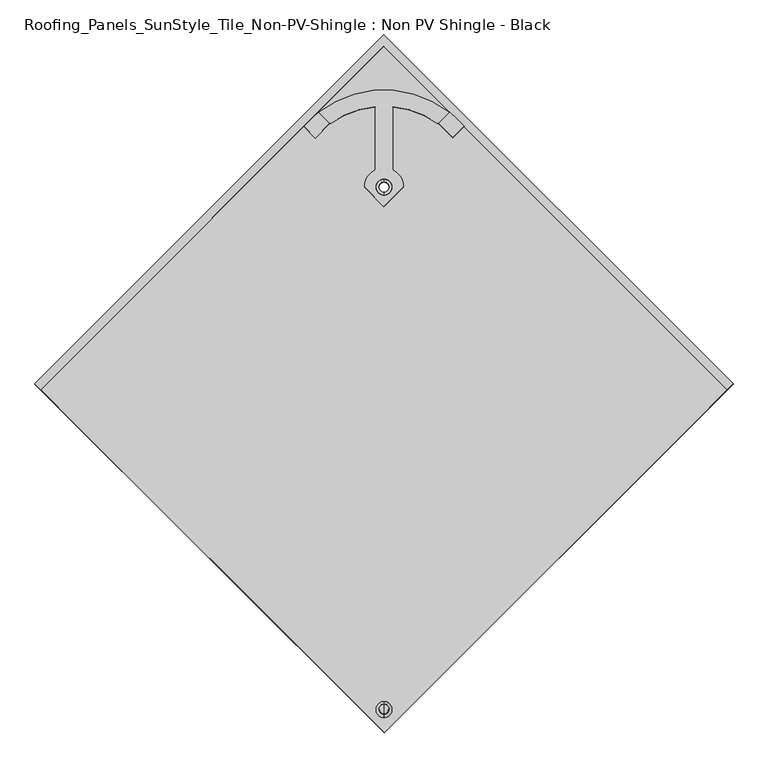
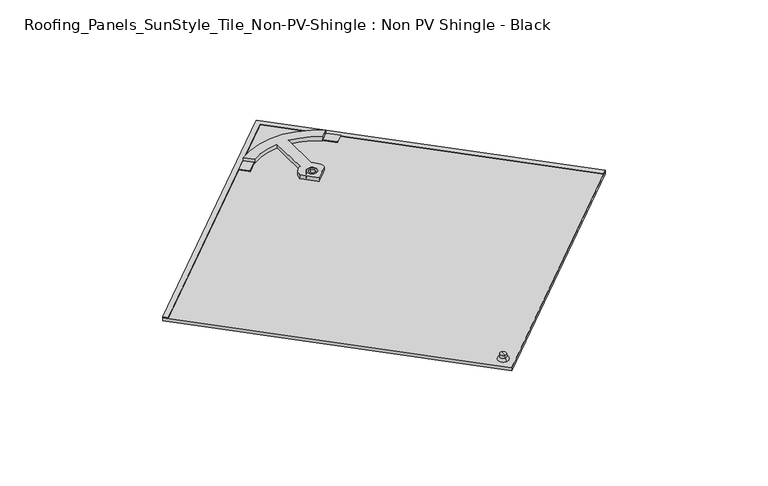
"""IFC4 building model written with IfcOpenShell, lengths in millimetres: proxy geometry, Roofing_Panels_SunStyle_Tile_Non-PV-Shingle : Non PV Shingle - Black."""

from ifc_helpers import new_model, si_unit, point, frame, frame_2d, origin, place, context, project, spatial, polyline, circle_curve, ellipse_curve, trimmed, segment, composite_curve, outline, extrude, source, transform, mapped, element, save
from ifc_brep_helpers import plane_surface, cylinder_surface, revolved_surface, advanced_brep


def roofing_panels_sunstyle_tile_non_pv_shingle_non_pv_shingle_be952c39(model_context):
    return source(origin(), model_context, "Body", "SolidModel", [
        advanced_brep(
        [(0.0, -498.1240851, 26.2215343), (0.0, -484.7910045, 25.9982384), (0.0, -485.1593136, 4.0063691), (0.0, -498.4923941, 4.229665), (0.0, -503.6233139, 26.3136327), (0.0, -479.2917757, 25.90614), (0.0, -498.6743176, 31.2274395), (0.0, -484.0734546, 30.9829114), (0.0, -491.2398577, 39.1080636), (0.0, -483.9394262, 38.9857996), (0.0, -498.5402891, 39.2303277), (0.0, -491.8258539, 4.118017)],
        [
            (0, 1, circle_curve(frame((0.0, -491.4575448, 26.1098864), z_axis=(0.0, -0.016745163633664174, -0.9998597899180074), x_axis=(0.0, 0.9998597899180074, -0.016745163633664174)), 6.6674751)),
            (1, 2),
            (2, 3, circle_curve(frame((0.0, -491.8258539, 4.118017), z_axis=(0.0, 0.016745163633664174, 0.9998597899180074), x_axis=(0.0, 0.9998597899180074, -0.016745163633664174)), 6.6674751)),
            (3, 0),
            (1, 0, circle_curve(frame((0.0, -491.4575448, 26.1098864), z_axis=(0.0, -0.016745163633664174, -0.9998597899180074), x_axis=(0.0, 0.9998597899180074, -0.016745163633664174)), 6.6674751)),
            (3, 2, circle_curve(frame((0.0, -491.8258539, 4.118017), z_axis=(0.0, 0.016745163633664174, 0.9998597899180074), x_axis=(0.0, 0.9998597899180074, -0.016745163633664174)), 6.6674751)),
            (4, 5, circle_curve(frame((0.0, -491.4575448, 26.1098864), z_axis=(0.0, -0.016745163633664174, -0.9998597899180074), x_axis=(0.0, 0.9998597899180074, -0.016745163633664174)), 12.1674751)),
            (5, 1),
            (0, 4),
            (5, 4, circle_curve(frame((0.0, -491.4575448, 26.1098864), z_axis=(0.0, -0.016745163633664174, -0.9998597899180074), x_axis=(0.0, 0.9998597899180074, -0.016745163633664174)), 12.1674751)),
            (6, 7, circle_curve(frame((0.0, -491.3738861, 31.1051755), z_axis=(0.0, -0.016745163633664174, -0.9998597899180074), x_axis=(0.0, 0.9998597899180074, -0.016745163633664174)), 7.3014552)),
            (7, 5, circle_curve(frame((0.0, -484.3776526, 25.90614), z_axis=(-1.0, 0.0, 0.0), x_axis=(0.0, -1.0, 0.0)), 5.0858769)),
            (4, 6, circle_curve(frame((0.0, -498.5402891, 26.1433289), z_axis=(-1.0, 0.0, 0.0), x_axis=(0.0, 0.9994391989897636, -0.03348563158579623)), 5.0858769)),
            (7, 6, circle_curve(frame((0.0, -491.3738861, 31.1051755), z_axis=(0.0, -0.016745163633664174, -0.9998597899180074), x_axis=(0.0, 0.9998597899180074, -0.016745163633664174)), 7.3014552)),
            (8, 9),
            (9, 10, circle_curve(frame((0.0, -491.2398577, 39.1080636), z_axis=(0.0, 0.016745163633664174, 0.9998597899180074), x_axis=(0.0, 0.9998597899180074, -0.016745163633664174)), 7.3014552)),
            (10, 8),
            (10, 9, circle_curve(frame((0.0, -491.2398577, 39.1080636), z_axis=(0.0, 0.016745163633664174, 0.9998597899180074), x_axis=(0.0, 0.9998597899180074, -0.016745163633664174)), 7.3014552)),
            (2, 11),
            (11, 3),
            (9, 7),
            (6, 10),
        ],
        [
            cylinder_surface(frame((0.0, -491.2398577, 39.1080636), z_axis=(0.0, 0.016745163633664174, 0.9998597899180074), x_axis=(0.0, 0.9998597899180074, -0.016745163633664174)), 6.6674751),
            plane_surface(frame((0.0, -491.4575448, 26.1098864), z_axis=(0.0, -0.016745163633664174, -0.9998597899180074), x_axis=(0.0, 0.9998597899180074, -0.016745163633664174))),
            revolved_surface(trimmed(ellipse_curve(frame((0.0, -484.3776526, 25.90614), z_axis=(1.0, 0.0, 0.0), x_axis=(0.0, -1.0, 0.0)), 5.0858769, 5.0858769), [point((0.0, -479.2917757, 25.90614))], [point((0.0, -484.0734546, 30.9829114))], True, "CARTESIAN"), (0.0, -491.2398577, 39.1080636), (0.0, 0.016745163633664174, 0.9998597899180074)),
            plane_surface(frame((0.0, -491.2398577, 39.1080636), z_axis=(0.0, 0.016745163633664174, 0.9998597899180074), x_axis=(0.0, 0.9998597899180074, -0.016745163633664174))),
            plane_surface(frame((0.0, -491.8258539, 4.118017), z_axis=(0.0, -0.016745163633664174, -0.9998597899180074), x_axis=(0.0, 0.9998597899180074, -0.016745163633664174))),
            cylinder_surface(frame((0.0, -491.2398577, 39.1080636), z_axis=(0.0, 0.016745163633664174, 0.9998597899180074), x_axis=(0.0, 0.9998597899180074, -0.016745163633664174)), 7.3014552),
        ],
        [
            (0, [[1, 2, 3, 4]]),
            (0, [[5, -4, 6, -2]]),
            (1, [[7, 8, -1, 9]]),
            (1, [[10, -9, -5, -8]]),
            (2, [[11, 12, -7, 13]]),
            (2, [[14, -13, -10, -12]]),
            (3, [[15, 16, 17]]),
            (3, [[-17, 18, -15]]),
            (4, [[-3, 19, 20]]),
            (4, [[-6, -20, -19]]),
            (5, [[-16, 21, -11, 22]]),
            (5, [[-18, -22, -14, -21]]),
        ],
    ),
        advanced_brep(
        [(0.0, 289.2885769, 20.2441668), (0.0, 304.6213779, 19.9873805), (0.0, 309.1207465, 19.9120273), (0.0, 284.7892083, 20.31952), (0.0, 289.0206547, 4.2464102), (0.0, 304.3534548, 3.9896239), (0.0, 284.5212856, 4.3217634), (0.0, 308.8528239, 3.9142707)],
        [
            (0, 1, circle_curve(frame((0.0, 296.9549774, 20.1157737), z_axis=(0.0, -0.016745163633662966, -0.9998597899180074), x_axis=(0.0, 0.9998597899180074, -0.016745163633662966)), 7.6674755)),
            (1, 2),
            (2, 3, circle_curve(frame((0.0, 296.9549774, 20.1157737), z_axis=(0.0, 0.016745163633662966, 0.9998597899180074), x_axis=(0.0, 0.9998597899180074, -0.016745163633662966)), 12.1674751)),
            (3, 0),
            (1, 0, circle_curve(frame((0.0, 296.9549774, 20.1157737), z_axis=(0.0, -0.016745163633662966, -0.9998597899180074), x_axis=(0.0, 0.9998597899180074, -0.016745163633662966)), 7.6674755)),
            (3, 2, circle_curve(frame((0.0, 296.9549774, 20.1157737), z_axis=(0.0, 0.016745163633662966, 0.9998597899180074), x_axis=(0.0, 0.9998597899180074, -0.016745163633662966)), 12.1674751)),
            (4, 5, circle_curve(frame((0.0, 296.6870548, 4.118017), z_axis=(0.0, -0.016745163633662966, -0.9998597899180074), x_axis=(0.0, 0.9998597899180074, -0.016745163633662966)), 7.6674751)),
            (5, 1),
            (0, 4),
            (5, 4, circle_curve(frame((0.0, 296.6870548, 4.118017), z_axis=(0.0, -0.016745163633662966, -0.9998597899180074), x_axis=(0.0, 0.9998597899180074, -0.016745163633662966)), 7.6674751)),
            (6, 7, circle_curve(frame((0.0, 296.6870548, 4.118017), z_axis=(0.0, -0.016745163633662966, -0.9998597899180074), x_axis=(0.0, 0.9998597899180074, -0.016745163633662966)), 12.1674751)),
            (7, 5),
            (4, 6),
            (7, 6, circle_curve(frame((0.0, 296.6870548, 4.118017), z_axis=(0.0, -0.016745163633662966, -0.9998597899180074), x_axis=(0.0, 0.9998597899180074, -0.016745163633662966)), 12.1674751)),
            (2, 7),
            (6, 3),
        ],
        [
            plane_surface(frame((0.0, 296.9549774, 20.1157737), z_axis=(0.0, 0.016745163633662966, 0.9998597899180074), x_axis=(0.0, 0.9998597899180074, -0.016745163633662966))),
            revolved_surface(polyline([(0.0, 304.62137744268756, 19.987380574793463), (0.0, 304.3534548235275, 3.989623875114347)]), (0.0, 296.9549774, 20.1157737), (0.0, 0.016745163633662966, 0.9998597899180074)),
            plane_surface(frame((0.0, 296.6870548, 4.118017), z_axis=(0.0, -0.016745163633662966, -0.9998597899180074), x_axis=(0.0, 0.9998597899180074, -0.016745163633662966))),
            cylinder_surface(frame((0.0, 296.9549774, 20.1157737), z_axis=(0.0, 0.016745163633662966, 0.9998597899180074), x_axis=(0.0, 0.9998597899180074, -0.016745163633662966)), 12.1674751),
        ],
        [
            (0, [[1, 2, 3, 4]]),
            (0, [[5, -4, 6, -2]]),
            (1, [[7, 8, -1, 9]]),
            (1, [[10, -9, -5, -8]]),
            (2, [[11, 12, -7, 13]]),
            (2, [[14, -13, -10, -12]]),
            (3, [[-3, 15, -11, 16]]),
            (3, [[-6, -16, -14, -15]]),
        ],
    ),
        extrude(outline(polyline([(1e-07, -12.0), (0.0, 0.0), (733.0016899, 0.0), (733.1044713, 733.0016826), (745.1044712, 733.0), (745.0000074, -12.0), (1e-07, -12.0)])), frame((518.3471255, -8.5059122, 16.4460771), z_axis=(0.0, 0.016745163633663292, 0.9998597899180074), x_axis=(-0.7071563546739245, 0.7069580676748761, -0.011839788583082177)), (0.0, 0.0, 1.0), 1.5),
        extrude(outline(polyline([(870.0507577, 0.0), (870.1552215, -745.0), (125.1552142, -745.0), (125.0507504, 0.0), (870.0507577, 0.0)]), holes=[composite_curve([segment(trimmed(circle_curve(frame_2d((150.1567569, -719.9944953)), 8.0), [point((144.499506, -714.3380376))], [point((155.8140077, -725.6509529))], True, "CARTESIAN"), True, "CONTINUOUS"), segment(trimmed(circle_curve(frame_2d((150.1567569, -719.9944953)), 8.0), [point((155.8140077, -725.6509529))], [point((144.499506, -714.3380376))], True, "CARTESIAN"), True, "CONTINUOUS")], self_intersect=False), composite_curve([segment(trimmed(circle_curve(frame_2d((707.2649775, -162.8081515)), 12.0), [point((698.7791012, -154.323465))], [point((715.7508538, -171.292838))], True, "CARTESIAN"), True, "CONTINUOUS"), segment(trimmed(circle_curve(frame_2d((707.2649775, -162.8081515)), 12.0), [point((715.7508538, -171.292838))], [point((698.7791012, -154.323465))], True, "CARTESIAN"), True, "CONTINUOUS")], self_intersect=False)]), frame((-615.2615997, -88.5524513, 10.2856058), z_axis=(0.0, 0.01674516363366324, 0.9998597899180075), x_axis=(0.7071563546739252, 0.7069580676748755, -0.01183978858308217)), (0.0, 0.0, 1.0), 7.5),
        advanced_brep(
        [(-98.3948724, 410.1117539, 19.4366751), (-81.1868897, 392.906184, 19.7248256), (-13.3, 418.0506034, 19.3037191), (-13.3, 323.1716174, 20.8927061), (-29.3894281, 296.9674978, 21.3315599), (0.0, 267.5821904, 21.8236907), (29.3894281, 296.9674978, 21.3315599), (13.3, 323.1716174, 20.8927061), (13.3, 418.0506034, 19.3037191), (81.1868897, 392.906184, 19.7248256), (98.3948724, 410.1117539, 19.4366751), (-12.0, 296.9674978, 21.3315599), (12.0, 296.9674978, 21.3315599), (81.1868897, 392.7387324, 9.7262277), (13.3, 417.8831517, 9.3051212), (13.3, 323.0041658, 10.8941082), (29.3894281, 296.8000461, 11.332962), (0.0, 267.4147388, 11.8250928), (-29.3894281, 296.8000461, 11.332962), (-13.3, 323.0041658, 10.8941082), (-13.3, 417.8831517, 9.3051212), (-81.1868897, 392.7387324, 9.7262277), (-81.5635806, 393.1153705, 9.7199199), (-103.6409197, 371.0411269, 10.0896086), (-121.1657242, 388.5634743, 9.7961529), (-113.9627627, 395.7644162, 9.675555), (-98.1147183, 409.6635783, 9.4427786), (-98.3948724, 409.9443023, 9.4380772), (98.0744767, 410.1896162, 9.4339688), (98.4920379, 410.6070603, 9.4269777), (110.7154352, 399.5721374, 9.6117852), (121.4464354, 388.8441462, 9.7914523), (103.7690438, 371.1692331, 10.0874631), (81.6917048, 393.2434767, 9.7177745), (-12.0, 296.8000461, 11.332962), (12.0, 296.8000461, 11.332962), (98.3948724, 409.9861652, 11.9377267), (98.0744767, 410.2314791, 11.9336183), (121.4464354, 388.8860091, 12.2911018), (110.7154352, 399.6140003, 12.1114346), (98.4920379, 410.6489232, 11.9266271), (81.6917048, 393.2853396, 12.217424), (103.7690438, 371.211096, 12.5871126), (-121.1657242, 388.6053372, 12.2958024), (-103.6409197, 371.0829898, 12.5892581), (-81.5627249, 393.158089, 12.2195551), (-98.1144137, 409.7057458, 11.942423), (-113.9627627, 395.8062791, 12.1752045)],
        [
            (0, 1),
            (1, 2, circle_curve(frame((0.0, 277.9625747, 21.649845), z_axis=(0.0, -0.01674516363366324, -0.9998597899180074), x_axis=(1.0, 0.0, 0.0)), 140.737522)),
            (2, 3),
            (3, 4, circle_curve(frame((0.0, 296.9674978, 21.3315599), z_axis=(0.0, 0.01674516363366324, 0.9998597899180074), x_axis=(1.0, 0.0, 0.0)), 29.3894281)),
            (4, 5),
            (5, 6),
            (6, 7, circle_curve(frame((0.0, 296.9674978, 21.3315599), z_axis=(0.0, 0.01674516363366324, 0.9998597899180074), x_axis=(1.0, 0.0, 0.0)), 29.3894281)),
            (7, 8),
            (8, 9, circle_curve(frame((0.0, 277.9625747, 21.649845), z_axis=(0.0, -0.01674516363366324, -0.9998597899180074), x_axis=(1.0, 0.0, 0.0)), 140.737522)),
            (9, 10),
            (10, 0, circle_curve(frame((0.0, 281.9696009, 21.5827373), z_axis=(0.0, 0.01674516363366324, 0.9998597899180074), x_axis=(1.0, 0.0, 0.0)), 161.57527)),
            (11, 12, circle_curve(frame((0.0, 296.9674978, 21.3315599), z_axis=(0.0, -0.01674516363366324, -0.9998597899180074), x_axis=(1.0, 0.0, 0.0)), 12.0)),
            (12, 11, circle_curve(frame((0.0, 296.9674978, 21.3315599), z_axis=(0.0, -0.01674516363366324, -0.9998597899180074), x_axis=(1.0, 0.0, 0.0)), 12.0)),
            (13, 14, circle_curve(frame((0.0, 277.795123, 11.6512471), z_axis=(0.0, 0.01674516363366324, 0.9998597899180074), x_axis=(1.0, 0.0, 0.0)), 140.737522)),
            (14, 15),
            (15, 16, circle_curve(frame((0.0, 296.8000461, 11.332962), z_axis=(0.0, -0.01674516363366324, -0.9998597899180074), x_axis=(1.0, 0.0, 0.0)), 29.3894281)),
            (16, 17),
            (17, 18),
            (18, 19, circle_curve(frame((0.0, 296.8000461, 11.332962), z_axis=(0.0, -0.01674516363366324, -0.9998597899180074), x_axis=(1.0, 0.0, 0.0)), 29.3894281)),
            (19, 20),
            (20, 21, circle_curve(frame((0.0, 277.795123, 11.6512471), z_axis=(0.0, 0.01674516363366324, 0.9998597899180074), x_axis=(1.0, 0.0, 0.0)), 140.737522)),
            (21, 22),
            (22, 23),
            (23, 24),
            (24, 25),
            (25, 26, circle_curve(frame((0.280196, 281.5214575, 11.5888403), z_axis=(0.0, -0.01674516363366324, -0.9998597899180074), x_axis=(-1.0, 0.0, 0.0)), 161.57527)),
            (26, 27),
            (27, 28, circle_curve(frame((0.0, 281.8021493, 11.5841394), z_axis=(0.0, -0.01674516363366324, -0.9998597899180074), x_axis=(1.0, 0.0, 0.0)), 161.57527)),
            (28, 29),
            (29, 30, circle_curve(frame((-3.5355339, 285.3371875, 11.5249363), z_axis=(0.0, -0.01674516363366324, -0.9998597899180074), x_axis=(1.0, 0.0, 0.0)), 161.57527)),
            (30, 31),
            (31, 32),
            (32, 33),
            (33, 13),
            (34, 35, circle_curve(frame((0.0, 296.8000461, 11.332962), z_axis=(0.0, 0.01674516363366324, 0.9998597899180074), x_axis=(1.0, 0.0, 0.0)), 12.0)),
            (35, 34, circle_curve(frame((0.0, 296.8000461, 11.332962), z_axis=(0.0, 0.01674516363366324, 0.9998597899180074), x_axis=(1.0, 0.0, 0.0)), 12.0)),
            (2, 20),
            (19, 3),
            (18, 4),
            (17, 5),
            (16, 6),
            (15, 7),
            (14, 8),
            (10, 36),
            (36, 37, circle_curve(frame((0.0, 281.8440122, 14.0837889), z_axis=(0.0, 0.01674516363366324, 0.9998597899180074), x_axis=(1.0, 0.0, 0.0)), 161.57527)),
            (37, 28),
            (27, 0),
            (11, 34),
            (35, 12),
            (38, 39),
            (39, 40, circle_curve(frame((-3.5355339, 285.3790504, 14.0245858), z_axis=(0.0, 0.01674516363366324, 0.9998597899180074), x_axis=(1.0, 0.0, 0.0)), 161.57527)),
            (40, 37),
            (36, 41),
            (41, 42),
            (42, 38),
            (43, 44),
            (44, 45),
            (45, 46),
            (46, 47, circle_curve(frame((0.280196, 281.5633204, 14.0884898), z_axis=(0.0, 0.01674516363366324, 0.9998597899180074), x_axis=(-1.0, 0.0, 0.0)), 161.57527)),
            (47, 43),
            (38, 31),
            (30, 39),
            (42, 32),
            (29, 40),
            (41, 33),
            (43, 24),
            (23, 44),
            (22, 45),
            (46, 26),
            (25, 47),
            (1, 21),
            (13, 9),
        ],
        [
            plane_surface(frame((-98.7748806, 410.4917089, 19.4303118), z_axis=(0.0, 0.016745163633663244, 0.9998597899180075), x_axis=(0.7071067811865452, -0.7070076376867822, 0.011840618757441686))),
            plane_surface(frame((-98.7748806, 410.3242572, 9.4317139), z_axis=(0.0, -0.016745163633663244, -0.9998597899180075), x_axis=(-0.7071067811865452, 0.7070076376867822, -0.011840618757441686))),
            plane_surface(frame((-13.3, 418.0506034, 19.3037191), z_axis=(-1.0000000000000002, 0.0, 0.0), x_axis=(0.0, -0.016745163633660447, -0.9998597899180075))),
            cylinder_surface(frame((0.0, 296.8000461, 11.332962), z_axis=(0.0, 0.01674516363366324, 0.9998597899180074), x_axis=(1.0, 0.0, 0.0)), 29.3894281),
            plane_surface(frame((-29.3894281, 296.9674978, 21.3315599), z_axis=(-0.7071067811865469, -0.7070076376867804, 0.011840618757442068), x_axis=(0.0, -0.016745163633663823, -0.9998597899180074))),
            plane_surface(frame((0.0, 267.5821904, 21.8236907), z_axis=(0.7071067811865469, -0.7070076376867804, 0.01184061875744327), x_axis=(0.0, -0.01674516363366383, -0.9998597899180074))),
            plane_surface(frame((13.3, 323.1716174, 20.8927061), z_axis=(1.0000000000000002, 0.0, 0.0), x_axis=(0.0, -0.016745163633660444, -0.9998597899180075))),
            cylinder_surface(frame((0.0, 281.8021493, 11.5841394), z_axis=(0.0, 0.01674516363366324, 0.9998597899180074), x_axis=(1.0, 0.0, 0.0)), 161.57527),
            revolved_surface(polyline([(12.0, 296.8000461, 11.332962), (12.0, 296.96749773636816, 21.331559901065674)]), (0.0, 296.8000461, 11.332962), (0.0, -0.01674516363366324, -0.9998597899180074)),
            plane_surface(frame((125.4111794, 384.9223767, 12.3574828), z_axis=(0.0, 0.01674516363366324, 0.9998597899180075), x_axis=(-0.707156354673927, 0.7069580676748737, -0.011839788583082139))),
            plane_surface(frame((121.4464354, 388.8860091, 12.2911018), z_axis=(0.7070572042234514, 0.7070572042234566, -0.01184144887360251), x_axis=(0.0, -0.016745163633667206, -0.9998597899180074))),
            plane_surface(frame((103.7690438, 371.211096, 12.5871126), z_axis=(0.7071067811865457, -0.7070076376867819, 0.011840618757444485), x_axis=(0.0, -0.016745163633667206, -0.9998597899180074))),
            cylinder_surface(frame((-3.5355339, 285.3371875, 11.5249363), z_axis=(0.0, 0.01674516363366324, 0.9998597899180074), x_axis=(1.0, 0.0, 0.0)), 161.57527),
            plane_surface(frame((81.4076644, 393.5693402, 12.2126677), z_axis=(-0.70710678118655, -0.7070076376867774, 0.01184061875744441), x_axis=(0.0, -0.016745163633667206, -0.9998597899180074))),
            plane_surface(frame((-121.1657242, 388.6053372, 12.2958024), z_axis=(-0.7071067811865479, -0.7070076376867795, 0.011840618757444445), x_axis=(0.0, -0.016745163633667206, -0.9998597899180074))),
            plane_surface(frame((-103.6409197, 371.0829898, 12.5892581), z_axis=(0.70710678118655, -0.7070076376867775, 0.011840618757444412), x_axis=(0.0, -0.016745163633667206, -0.9998597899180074))),
            cylinder_surface(frame((0.280196, 281.5214575, 11.5888403), z_axis=(0.0, 0.01674516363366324, 0.9998597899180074), x_axis=(-1.0, 0.0, 0.0)), 161.57527),
            plane_surface(frame((-113.9627627, 395.8062791, 12.1752045), z_axis=(-0.7070572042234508, 0.7070572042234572, -0.011841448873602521), x_axis=(0.0, -0.016745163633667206, -0.9998597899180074))),
            revolved_surface(polyline([(140.737522, 277.795123, 11.6512471), (140.737522, 277.9625746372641, 21.64984505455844)]), (0.0, 277.795123, 11.6512471), (0.0, -0.01674516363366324, -0.9998597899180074)),
            plane_surface(frame((98.4920379, 410.6489232, 11.9266271), z_axis=(-0.7070572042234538, 0.7070572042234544, -0.011841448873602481), x_axis=(0.0, -0.016745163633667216, -0.9998597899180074))),
            plane_surface(frame((-98.3948724, 410.1117539, 19.4366751), z_axis=(-0.70710678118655, -0.7070076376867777, 0.011840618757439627), x_axis=(0.0, -0.01674516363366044, -0.9998597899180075))),
            plane_surface(frame((81.1868897, 392.906184, 19.7248256), z_axis=(0.7071067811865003, -0.7070076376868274, 0.011840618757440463), x_axis=(0.0, -0.016745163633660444, -0.9998597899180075))),
        ],
        [
            (0, [[1, 2, 3, 4, 5, 6, 7, 8, 9, 10, 11], [12, 13]]),
            (1, [[14, 15, 16, 17, 18, 19, 20, 21, 22, 23, 24, 25, 26, 27, 28, 29, 30, 31, 32, 33, 34], [35, 36]]),
            (2, [[-3, 37, -20, 38]]),
            (3, [[-4, -38, -19, 39]]),
            (4, [[-5, -39, -18, 40]]),
            (5, [[-6, -40, -17, 41]]),
            (3, [[-7, -41, -16, 42]]),
            (6, [[-8, -42, -15, 43]]),
            (7, [[-11, 44, 45, 46, -28, 47]]),
            (8, [[-12, 48, -36, 49]]),
            (8, [[-13, -49, -35, -48]]),
            (9, [[50, 51, 52, -45, 53, 54, 55]]),
            (9, [[56, 57, 58, 59, 60]]),
            (10, [[-50, 61, -31, 62]]),
            (11, [[-55, 63, -32, -61]]),
            (12, [[-51, -62, -30, 64]]),
            (13, [[-63, -54, 65, -33]]),
            (14, [[-56, 66, -24, 67]]),
            (15, [[-57, -67, -23, 68]]),
            (16, [[-59, 69, -26, 70]]),
            (17, [[-60, -70, -25, -66]]),
            (18, [[-2, 71, -21, -37]]),
            (18, [[-9, -43, -14, 72]]),
            (19, [[-64, -29, -46, -52]]),
            (20, [[-1, -47, -27, -69, -58, -68, -22, -71]]),
            (21, [[-10, -72, -34, -65, -53, -44]]),
        ],
    ),
    ])


if __name__ == "__main__":
    model = new_model("IFC4")
    model_context = context("Model", 3, world=origin())
    ifc_project = project(units=[si_unit("LENGTHUNIT", "METRE", prefix="MILLI")], contexts=[model_context])
    site = spatial("IfcSite", under=ifc_project)
    building = spatial("IfcBuilding", under=site)
    placement = place(None, origin())
    roofing_panels_sunstyle_tile_non_pv_shingle_non_pv_shingle_shape = roofing_panels_sunstyle_tile_non_pv_shingle_non_pv_shingle_be952c39(model_context)
    element("IfcBuildingElementProxy", 1, Name="Roofing_Panels_SunStyle_Tile_Non-PV-Shingle : Non PV Shingle - Black", ObjectType="Roofing_Panels_SunStyle_Tile_Non-PV-Shingle : Non PV Shingle - Black", at=placement, inside=building, context=model_context, shape_type="MappedRepresentation", body=[
        mapped(roofing_panels_sunstyle_tile_non_pv_shingle_non_pv_shingle_shape, transform((0.0, 0.0, 0.0), x_axis=(1.0, 0.0, 0.0), y_axis=(0.0, 1.0, 0.0), z_axis=(0.0, 0.0, 1.0))),
    ])
    save(model, "model.ifc")
